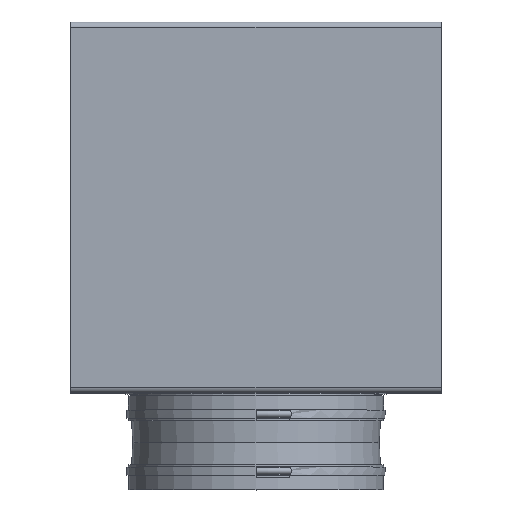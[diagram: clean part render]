
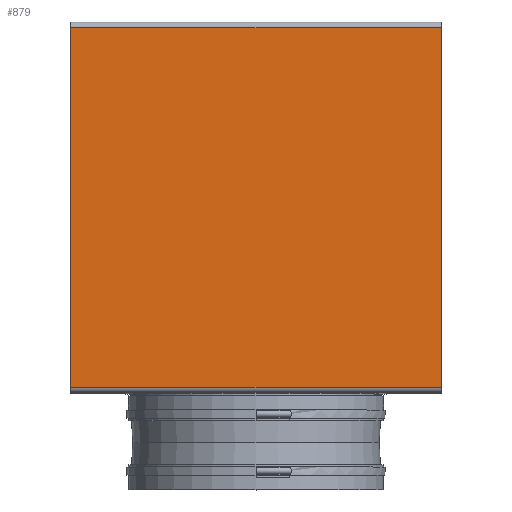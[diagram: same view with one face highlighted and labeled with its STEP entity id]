
A CAD part, top view. The second image highlights one B-rep face of the part: STEP entity #879.
In plain terms, the highlighted planar face has unit normal (0, 0, 1).
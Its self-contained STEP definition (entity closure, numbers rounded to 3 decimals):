
#85=PLANE('',#991);
#138=FACE_OUTER_BOUND('',#227,.T.);
#227=EDGE_LOOP('',(#718,#719,#720,#721));
#290=LINE('',#1478,#334);
#291=LINE('',#1480,#335);
#292=LINE('',#1482,#336);
#293=LINE('',#1483,#337);
#334=VECTOR('',#1217,10.);
#335=VECTOR('',#1218,10.);
#336=VECTOR('',#1219,10.);
#337=VECTOR('',#1220,10.);
#466=VERTEX_POINT('',#1476);
#467=VERTEX_POINT('',#1477);
#468=VERTEX_POINT('',#1479);
#469=VERTEX_POINT('',#1481);
#558=EDGE_CURVE('',#466,#467,#290,.T.);
#559=EDGE_CURVE('',#468,#466,#291,.T.);
#560=EDGE_CURVE('',#469,#468,#292,.T.);
#561=EDGE_CURVE('',#469,#467,#293,.T.);
#718=ORIENTED_EDGE('',*,*,#558,.F.);
#719=ORIENTED_EDGE('',*,*,#559,.F.);
#720=ORIENTED_EDGE('',*,*,#560,.F.);
#721=ORIENTED_EDGE('',*,*,#561,.T.);
#879=ADVANCED_FACE('',(#138),#85,.T.);
#991=AXIS2_PLACEMENT_3D('',#1475,#1215,#1216);
#1215=DIRECTION('center_axis',(0.,0.,1.));
#1216=DIRECTION('ref_axis',(1.,0.,0.));
#1217=DIRECTION('',(1.,0.,0.));
#1218=DIRECTION('',(0.,1.,0.));
#1219=DIRECTION('',(-1.,0.,0.));
#1220=DIRECTION('',(0.,1.,0.));
#1475=CARTESIAN_POINT('Origin',(-335.,0.,335.));
#1476=CARTESIAN_POINT('',(-335.,325.,335.));
#1477=CARTESIAN_POINT('',(335.,325.,335.));
#1478=CARTESIAN_POINT('',(-167.5,325.,335.));
#1479=CARTESIAN_POINT('',(-335.,-325.,335.));
#1480=CARTESIAN_POINT('',(-335.,0.,335.));
#1481=CARTESIAN_POINT('',(335.,-325.,335.));
#1482=CARTESIAN_POINT('',(-167.5,-325.,335.));
#1483=CARTESIAN_POINT('',(335.,0.,335.));
